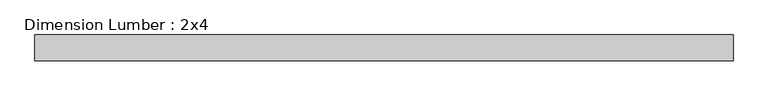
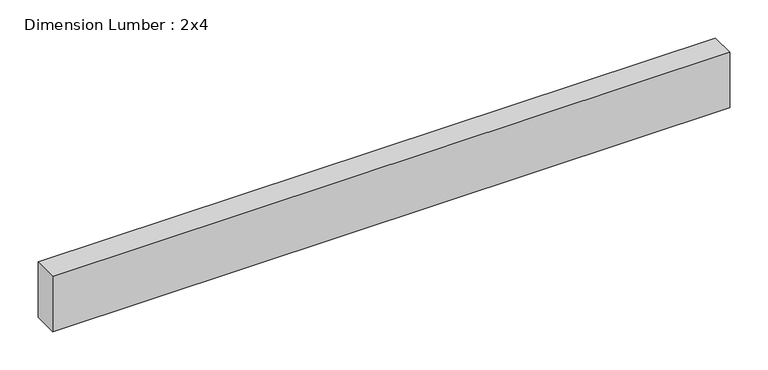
"""IFC4 building model written with IfcOpenShell, lengths in millimetres: beam geometry, Dimension Lumber : 2x4."""

import ifcopenshell
import ifcopenshell.guid

model = None  # the IFC model being written
_history = None  # IfcOwnerHistory: only IFC2X3 demands one
_inside = {}  # id of a spatial element -> (the spatial element, [elements in it])
_under = {}  # id of a project, library or spatial element -> (it, [spatial elements below it])
_declared = {}  # id of a project -> (the project, [libraries it declares])
_typed = {}  # id of a type object -> (the type object, [elements of that type])
_made_of = {}  # id of a material, layer set ... -> (it, [elements and type objects made of it])


def new_model(schema):
    """Start an empty IFC model of exactly this schema.

    Asked for "IFC4X3", IfcOpenShell would pick the latest addendum, in which some entities
    have other attributes; the version numbers below select the first issue.
    IFC2X3 requires an IfcOwnerHistory on every rooted entity: one is made here for all.
    """
    global model, _history
    if schema == "IFC4X3":
        model = ifcopenshell.file(schema_version=(4, 3, 0, 0))
    else:
        model = ifcopenshell.file(schema=schema)
    _inside.clear()
    _under.clear()
    _declared.clear()
    _typed.clear()
    _made_of.clear()
    _history = None
    if model.schema == "IFC2X3":
        org = make("IfcOrganization", Name="unknown")
        user = make(
            "IfcPersonAndOrganization",
            ThePerson=make("IfcPerson", FamilyName="unknown"),
            TheOrganization=org,
        )
        app = make(
            "IfcApplication",
            ApplicationDeveloper=org,
            Version="unknown",
            ApplicationFullName="unknown",
            ApplicationIdentifier="unknown",
        )
        _history = make(
            "IfcOwnerHistory",
            OwningUser=user,
            OwningApplication=app,
            ChangeAction="ADDED",
            CreationDate=0,
        )
    return model


def make(cls, **values):
    """One entity of the class cls with the attributes given. An attribute that is None is left unset."""
    return model.create_entity(
        cls, **{name: value for name, value in values.items() if value is not None}
    )


def rooted(cls, **values):
    """An entity with a GlobalId (a new one), such as an element, a storey or a relation."""
    return make(cls, GlobalId=ifcopenshell.guid.new(), OwnerHistory=_history, **values)


def si_unit(unit_type, name, prefix=None):
    """IfcSIUnit, for example si_unit("LENGTHUNIT", "METRE", prefix="MILLI")."""
    return make("IfcSIUnit", UnitType=unit_type, Prefix=prefix, Name=name)


def assignment(units):
    """IfcUnitAssignment: the units of a project."""
    return None if units is None else make("IfcUnitAssignment", Units=units)


def point(xyz):
    """IfcCartesianPoint."""
    return None if xyz is None else make("IfcCartesianPoint", Coordinates=xyz)


def direction(xyz):
    """IfcDirection."""
    return None if xyz is None else make("IfcDirection", DirectionRatios=xyz)


def frame(location, z_axis=None, x_axis=None):
    """IfcAxis2Placement3D, a coordinate frame: its origin and axes. An axis left out is left unset."""
    return make(
        "IfcAxis2Placement3D",
        Location=point(location),
        Axis=direction(z_axis),
        RefDirection=direction(x_axis),
    )


def origin():
    """The frame at (0, 0, 0) with its axes left unset."""
    return frame((0.0, 0.0, 0.0))


def place(relative_to, where):
    """IfcLocalPlacement: puts the frame where relative to a parent placement (None: the world)."""
    return make(
        "IfcLocalPlacement", PlacementRelTo=relative_to, RelativePlacement=where
    )


def context(
    kind, dimensions, precision=None, world=None, true_north=None, identifier=None
):
    """IfcGeometricRepresentationContext, for example the 3D "Model" context."""
    return make(
        "IfcGeometricRepresentationContext",
        ContextIdentifier=identifier,
        ContextType=kind,
        CoordinateSpaceDimension=dimensions,
        Precision=precision,
        WorldCoordinateSystem=world,
        TrueNorth=true_north,
    )


def project(units=None, contexts=None):
    """IfcProject with its units and contexts."""
    return rooted(
        "IfcProject",
        Name="project",
        RepresentationContexts=contexts,
        UnitsInContext=assignment(units),
    )


def spatial(cls, under=None, at=None, **own):
    """A site, building, storey or space (cls), placed at a placement, below another one or the project."""
    s = rooted(cls, ObjectPlacement=at, **own)
    if under is not None:
        _under.setdefault(under.id(), (under, []))[1].append(s)
    return s


def polyline(points):
    """IfcPolyline through the points."""
    return make("IfcPolyline", Points=[point(p) for p in points])


def outline(outer, holes=None, kind="AREA"):
    """IfcArbitraryClosedProfileDef: a profile drawn as a closed curve; with holes, ...WithVoids."""
    if holes is None:
        return make("IfcArbitraryClosedProfileDef", ProfileType=kind, OuterCurve=outer)
    return make(
        "IfcArbitraryProfileDefWithVoids",
        ProfileType=kind,
        OuterCurve=outer,
        InnerCurves=holes,
    )


def extrude(swept, where, along, depth):
    """IfcExtrudedAreaSolid: the profile swept, set in the frame where, extruded along a direction by depth."""
    return make(
        "IfcExtrudedAreaSolid",
        SweptArea=swept,
        Position=where,
        ExtrudedDirection=direction(along),
        Depth=depth,
    )


def shape(context_of_items, identifier, shape_type, items):
    """IfcShapeRepresentation: the items that make up one representation, for example the "Body"."""
    return make(
        "IfcShapeRepresentation",
        ContextOfItems=context_of_items,
        RepresentationIdentifier=identifier,
        RepresentationType=shape_type,
        Items=items,
    )


def source(mapping_origin, context_of_items, identifier, shape_type, items):
    """IfcRepresentationMap: a shape defined once, which mapped items show again and again."""
    return make(
        "IfcRepresentationMap",
        MappingOrigin=mapping_origin,
        MappedRepresentation=shape(context_of_items, identifier, shape_type, items),
    )


def transform(
    local_origin,
    x_axis=None,
    y_axis=None,
    z_axis=None,
    scale=None,
    scale2=None,
    scale3=None,
    uniform=True,
):
    """IfcCartesianTransformationOperator3D, or its non-uniform kind. x_axis, y_axis, z_axis: its Axis1, 2, 3."""
    if uniform:
        return make(
            "IfcCartesianTransformationOperator3D",
            Axis1=direction(x_axis),
            Axis2=direction(y_axis),
            LocalOrigin=point(local_origin),
            Scale=scale,
            Axis3=direction(z_axis),
        )
    return make(
        "IfcCartesianTransformationOperator3DnonUniform",
        Axis1=direction(x_axis),
        Axis2=direction(y_axis),
        LocalOrigin=point(local_origin),
        Scale=scale,
        Axis3=direction(z_axis),
        Scale2=scale2,
        Scale3=scale3,
    )


def mapped(mapping_source, mapping_target):
    """IfcMappedItem: shows the shape of a source again, moved by a transform."""
    return make(
        "IfcMappedItem", MappingSource=mapping_source, MappingTarget=mapping_target
    )


def made_of(thing, what):
    """Note that an element or type object is made of a material, layer set ...; save() writes the relation."""
    if what is not None:
        _made_of.setdefault(what.id(), (what, []))[1].append(thing)
    return thing


def element(
    cls,
    number,
    at=None,
    inside=None,
    cuts=None,
    type_object=None,
    material=None,
    context=None,
    identifier="Body",
    shape_type=None,
    held_by="IfcProductDefinitionShape",
    body=None,
    shapes=None,
    **own,
):
    """One element of the class cls, such as IfcWall. Its Tag is "e" and its number.

    at: its placement. inside: the storey or other place that contains it. cuts: it is an
    opening in that element (IfcRelVoidsElement). A single representation is given by context,
    identifier, shape_type and body (its items); several are given by shapes. held_by: the class
    of the entity that holds the representations. save() writes the other relations.
    """
    e = rooted(cls, Tag="e%d" % number, ObjectPlacement=at, **own)
    if body is not None:
        shapes = [shape(context, identifier, shape_type, body)]
    if shapes is not None:
        e.Representation = make(held_by, Representations=shapes)
    if inside is not None:
        _inside.setdefault(inside.id(), (inside, []))[1].append(e)
    if cuts is not None:
        rooted(
            "IfcRelVoidsElement", RelatingBuildingElement=cuts, RelatedOpeningElement=e
        )
    if type_object is not None:
        _typed.setdefault(type_object.id(), (type_object, []))[1].append(e)
    return made_of(e, material)


def aggregate(whole, parts):
    """IfcRelAggregates: a whole, such as a stair, and the parts it consists of."""
    return rooted("IfcRelAggregates", RelatingObject=whole, RelatedObjects=parts)


def save(model, path):
    """Write the relations noted so far, then the file.

    IfcRelAggregates (storeys below a building ...), IfcRelContainedInSpatialStructure (elements
    in a storey), IfcRelDefinesByType, IfcRelAssociatesMaterial and IfcRelDeclares: one each for
    every whole, place, type object, material and project.
    """
    for whole, parts in _under.values():
        aggregate(whole, parts)
    for where, things in _inside.values():
        rooted(
            "IfcRelContainedInSpatialStructure",
            RelatedElements=things,
            RelatingStructure=where,
        )
    for kind, things in _typed.values():
        rooted("IfcRelDefinesByType", RelatedObjects=things, RelatingType=kind)
    for what, things in _made_of.values():
        rooted("IfcRelAssociatesMaterial", RelatedObjects=things, RelatingMaterial=what)
    for by, libraries in _declared.values():
        rooted("IfcRelDeclares", RelatingContext=by, RelatedDefinitions=libraries)
    model.write(path)


def dimension_lumber_2x4_a3681e23(model_context):
    return source(origin(), model_context, "Body", "SweptSolid", [
        extrude(outline(polyline([(513.5276881, 19.05), (513.5276881, -19.05), (-513.5276881, -19.05), (-513.5276881, 19.05), (513.5276881, 19.05)])), frame((0.0, 0.0, -44.45), z_axis=(0.0, 0.0, 1.0), x_axis=(1.0, 0.0, 0.0)), (0.0, 0.0, 1.0), 88.9),
    ])


if __name__ == "__main__":
    model = new_model("IFC4")
    model_context = context("Model", 3, world=origin())
    ifc_project = project(units=[si_unit("LENGTHUNIT", "METRE", prefix="MILLI")], contexts=[model_context])
    site = spatial("IfcSite", under=ifc_project)
    building = spatial("IfcBuilding", under=site)
    placement = place(None, origin())
    dimension_lumber_2x4_shape = dimension_lumber_2x4_a3681e23(model_context)
    element("IfcBeam", 1, ObjectType="Dimension Lumber : 2x4", at=placement, inside=building, context=model_context, shape_type="MappedRepresentation", body=[
        mapped(dimension_lumber_2x4_shape, transform((0.0, 0.0, 0.0), x_axis=(1.0, 0.0, 0.0), y_axis=(0.0, 1.0, 0.0), z_axis=(0.0, 0.0, 1.0))),
    ])
    save(model, "model.ifc")
